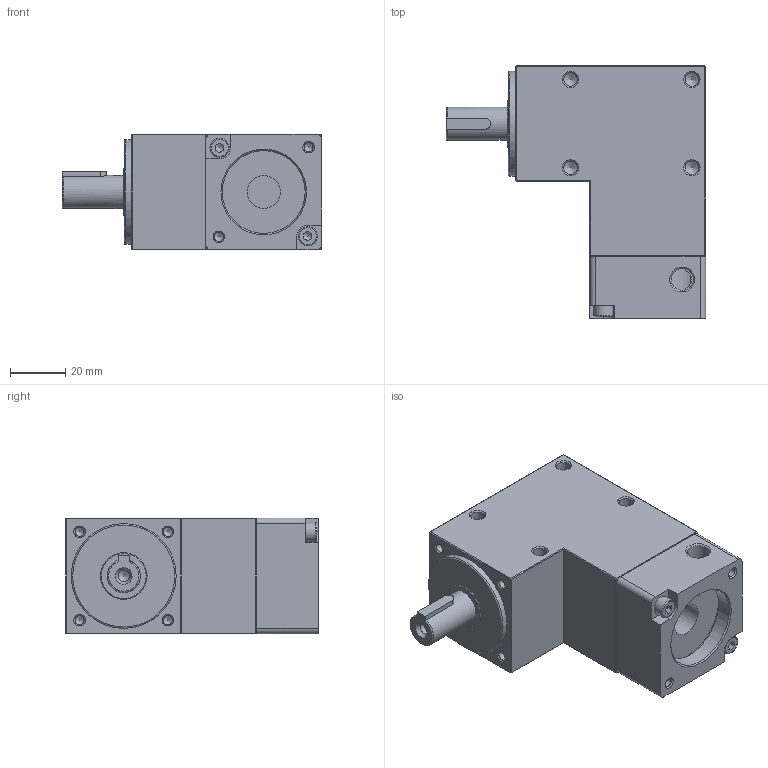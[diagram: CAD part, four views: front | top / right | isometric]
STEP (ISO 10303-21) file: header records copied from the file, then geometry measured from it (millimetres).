
FILE_DESCRIPTION((''),'2;1');
FILE_NAME('D:\유성\SBT 베벨기어박스\최종도면모음\3D\SBT042\SBT042MLS001K.stp','2014-05-19T08:35:09',(''),(''),'Autodesk Inventor 2013','Autodesk Inventor 2013','');
FILE_SCHEMA(('AUTOMOTIVE_DESIGN { 1 0 10303 214 1 1 1 1 }'));
Length unit declared in the file: millimetre
Products named in the file (1): SBT042MLS001K_Shrinkwrap_1
Bounding box: 94 x 91.5 x 42 mm (x, y, z)
Volume: 199075.6 mm3; surface area: 34268.1 mm2
Topology: 1 solids, 8 shells, 186 faces, 410 edges, 245 vertices
Faces by surface type: plane 89, cone 47, cylinder 43, torus 7
Full cylindrical faces by diameter (mm): 3.242 x10, 4 x2, 4.134 x1, 4.5 x2, 4.917 x8, 7 x2, 8 x1, 12 x2, 16.9 x2, 30 x1, 33 x1, 38 x3
Entity records: 4420 total; most frequent: CARTESIAN_POINT 789, DIRECTION 773, ORIENTED_EDGE 584, AXIS2_PLACEMENT_3D 313, EDGE_CURVE 292, EDGE_LOOP 287, VERTEX_POINT 215, FACE_OUTER_BOUND 186
